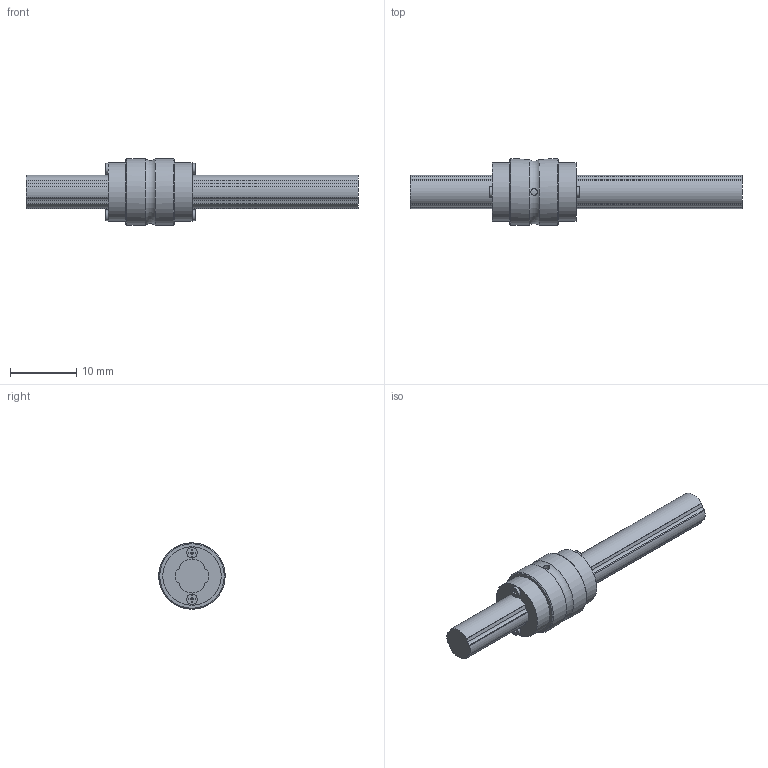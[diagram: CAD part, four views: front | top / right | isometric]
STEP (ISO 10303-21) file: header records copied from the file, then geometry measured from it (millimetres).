
FILE_DESCRIPTION(/* description */ ('STEP AP214'),/* implementation_level */ '2;1');
FILE_NAME(/* name */ 'LT5X+50L(00)',/* time_stamp */ '2024-09-05T14:10:03+02:00',/* author */ ('License CC BY-ND 4.0'),/* organization */ ('CADENAS'),/* preprocessor_version */ 'ST-DEVELOPER v19.3',/* originating_system */ 'PARTsolutions',/* authorisation */ ' ');
FILE_SCHEMA (('AUTOMOTIVE_DESIGN {1 0 10303 214 3 1 1}'));
Length unit declared in the file: millimetre
Products named in the file (3): LT5X+50L(00); 1LT5X 50Shaft; 1LT5X Cylindar
Assembly tree (2 placements, depth 2):
  LT5X+50L(00)
    1LT5X 50Shaft
    1LT5X Cylindar
Bounding box: 50 x 10 x 10 mm (x, y, z)
Volume: 1585.5 mm3; surface area: 1565.6 mm2
Topology: 2 solids, 2 shells, 120 faces, 320 edges, 214 vertices
Faces by surface type: plane 73, cylinder 44, cone 2, torus 1
Full cylindrical faces by diameter (mm): 1 x2, 1.6 x4, 8.8 x2, 10 x2
Entity records: 3761 total; most frequent: CARTESIAN_POINT 693, DIRECTION 624, ORIENTED_EDGE 604, EDGE_CURVE 302, LINE 210, VECTOR 210, VERTEX_POINT 208, AXIS2_PLACEMENT_3D 207
